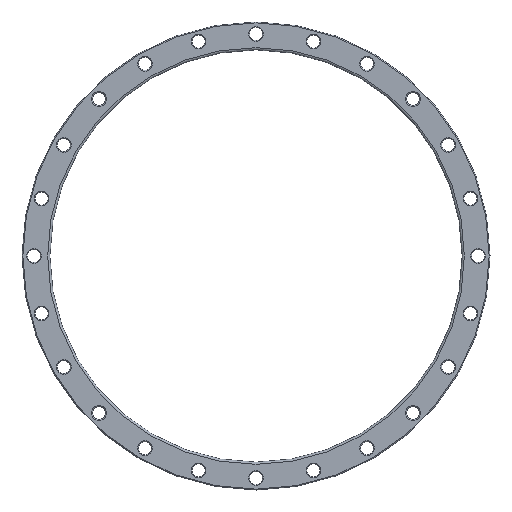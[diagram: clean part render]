
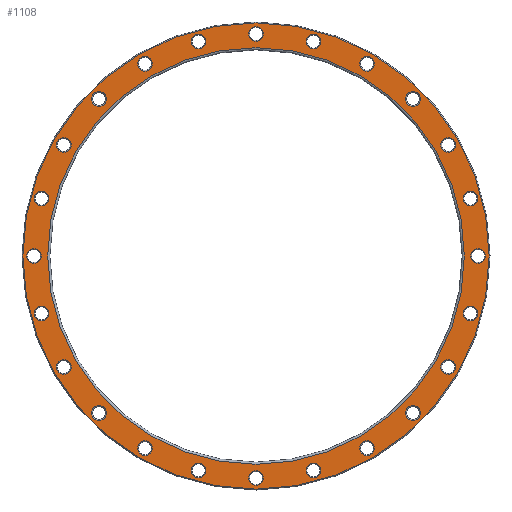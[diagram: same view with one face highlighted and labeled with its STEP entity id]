
A CAD part, front view. The second image highlights one B-rep face of the part: STEP entity #1108.
In plain terms, the highlighted planar face has unit normal (0, -1, 0).
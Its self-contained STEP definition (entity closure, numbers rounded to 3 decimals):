
#23=PLANE('',#1300);
#242=ORIENTED_EDGE('',*,*,#381,.T.);
#243=ORIENTED_EDGE('',*,*,#382,.T.);
#244=ORIENTED_EDGE('',*,*,#284,.T.);
#245=ORIENTED_EDGE('',*,*,#288,.T.);
#246=ORIENTED_EDGE('',*,*,#292,.T.);
#247=ORIENTED_EDGE('',*,*,#296,.T.);
#248=ORIENTED_EDGE('',*,*,#300,.T.);
#249=ORIENTED_EDGE('',*,*,#304,.T.);
#250=ORIENTED_EDGE('',*,*,#308,.T.);
#251=ORIENTED_EDGE('',*,*,#312,.T.);
#252=ORIENTED_EDGE('',*,*,#316,.T.);
#253=ORIENTED_EDGE('',*,*,#320,.T.);
#254=ORIENTED_EDGE('',*,*,#324,.T.);
#255=ORIENTED_EDGE('',*,*,#328,.T.);
#256=ORIENTED_EDGE('',*,*,#332,.T.);
#257=ORIENTED_EDGE('',*,*,#336,.T.);
#258=ORIENTED_EDGE('',*,*,#340,.T.);
#259=ORIENTED_EDGE('',*,*,#344,.T.);
#260=ORIENTED_EDGE('',*,*,#348,.T.);
#261=ORIENTED_EDGE('',*,*,#352,.T.);
#262=ORIENTED_EDGE('',*,*,#356,.T.);
#263=ORIENTED_EDGE('',*,*,#360,.T.);
#264=ORIENTED_EDGE('',*,*,#364,.T.);
#265=ORIENTED_EDGE('',*,*,#368,.T.);
#266=ORIENTED_EDGE('',*,*,#372,.T.);
#267=ORIENTED_EDGE('',*,*,#383,.T.);
#284=EDGE_CURVE('',#388,#388,#492,.T.);
#288=EDGE_CURVE('',#392,#392,#496,.T.);
#292=EDGE_CURVE('',#396,#396,#500,.T.);
#296=EDGE_CURVE('',#400,#400,#504,.T.);
#300=EDGE_CURVE('',#404,#404,#508,.T.);
#304=EDGE_CURVE('',#408,#408,#512,.T.);
#308=EDGE_CURVE('',#412,#412,#516,.T.);
#312=EDGE_CURVE('',#416,#416,#520,.T.);
#316=EDGE_CURVE('',#420,#420,#524,.T.);
#320=EDGE_CURVE('',#424,#424,#528,.T.);
#324=EDGE_CURVE('',#428,#428,#532,.T.);
#328=EDGE_CURVE('',#432,#432,#536,.T.);
#332=EDGE_CURVE('',#436,#436,#540,.T.);
#336=EDGE_CURVE('',#440,#440,#544,.T.);
#340=EDGE_CURVE('',#444,#444,#548,.T.);
#344=EDGE_CURVE('',#448,#448,#552,.T.);
#348=EDGE_CURVE('',#452,#452,#556,.T.);
#352=EDGE_CURVE('',#456,#456,#560,.T.);
#356=EDGE_CURVE('',#460,#460,#564,.T.);
#360=EDGE_CURVE('',#464,#464,#568,.T.);
#364=EDGE_CURVE('',#468,#468,#572,.T.);
#368=EDGE_CURVE('',#472,#472,#576,.T.);
#372=EDGE_CURVE('',#476,#476,#580,.T.);
#381=EDGE_CURVE('',#485,#485,#589,.F.);
#382=EDGE_CURVE('',#486,#486,#590,.T.);
#383=EDGE_CURVE('',#487,#487,#591,.T.);
#388=VERTEX_POINT('',#1691);
#392=VERTEX_POINT('',#1702);
#396=VERTEX_POINT('',#1713);
#400=VERTEX_POINT('',#1724);
#404=VERTEX_POINT('',#1735);
#408=VERTEX_POINT('',#1746);
#412=VERTEX_POINT('',#1757);
#416=VERTEX_POINT('',#1768);
#420=VERTEX_POINT('',#1779);
#424=VERTEX_POINT('',#1790);
#428=VERTEX_POINT('',#1801);
#432=VERTEX_POINT('',#1812);
#436=VERTEX_POINT('',#1823);
#440=VERTEX_POINT('',#1834);
#444=VERTEX_POINT('',#1845);
#448=VERTEX_POINT('',#1856);
#452=VERTEX_POINT('',#1867);
#456=VERTEX_POINT('',#1878);
#460=VERTEX_POINT('',#1889);
#464=VERTEX_POINT('',#1900);
#468=VERTEX_POINT('',#1911);
#472=VERTEX_POINT('',#1922);
#476=VERTEX_POINT('',#1933);
#485=VERTEX_POINT('',#1956);
#486=VERTEX_POINT('',#1958);
#487=VERTEX_POINT('',#1960);
#492=CIRCLE('',#1133,17.);
#496=CIRCLE('',#1140,17.);
#500=CIRCLE('',#1147,17.);
#504=CIRCLE('',#1154,17.);
#508=CIRCLE('',#1161,17.);
#512=CIRCLE('',#1168,17.);
#516=CIRCLE('',#1175,17.);
#520=CIRCLE('',#1182,17.);
#524=CIRCLE('',#1189,17.);
#528=CIRCLE('',#1196,17.);
#532=CIRCLE('',#1203,17.);
#536=CIRCLE('',#1210,17.);
#540=CIRCLE('',#1217,17.);
#544=CIRCLE('',#1224,17.);
#548=CIRCLE('',#1231,17.);
#552=CIRCLE('',#1238,17.);
#556=CIRCLE('',#1245,17.);
#560=CIRCLE('',#1252,17.);
#564=CIRCLE('',#1259,17.);
#568=CIRCLE('',#1266,17.);
#572=CIRCLE('',#1273,17.);
#576=CIRCLE('',#1280,17.);
#580=CIRCLE('',#1287,17.);
#589=CIRCLE('',#1301,535.5);
#590=CIRCLE('',#1302,478.5);
#591=CIRCLE('',#1303,17.);
#762=EDGE_LOOP('',(#242));
#763=EDGE_LOOP('',(#243));
#764=EDGE_LOOP('',(#244));
#765=EDGE_LOOP('',(#245));
#766=EDGE_LOOP('',(#246));
#767=EDGE_LOOP('',(#247));
#768=EDGE_LOOP('',(#248));
#769=EDGE_LOOP('',(#249));
#770=EDGE_LOOP('',(#250));
#771=EDGE_LOOP('',(#251));
#772=EDGE_LOOP('',(#252));
#773=EDGE_LOOP('',(#253));
#774=EDGE_LOOP('',(#254));
#775=EDGE_LOOP('',(#255));
#776=EDGE_LOOP('',(#256));
#777=EDGE_LOOP('',(#257));
#778=EDGE_LOOP('',(#258));
#779=EDGE_LOOP('',(#259));
#780=EDGE_LOOP('',(#260));
#781=EDGE_LOOP('',(#261));
#782=EDGE_LOOP('',(#262));
#783=EDGE_LOOP('',(#263));
#784=EDGE_LOOP('',(#264));
#785=EDGE_LOOP('',(#265));
#786=EDGE_LOOP('',(#266));
#787=EDGE_LOOP('',(#267));
#970=FACE_BOUND('',#762,.T.);
#971=FACE_BOUND('',#763,.T.);
#972=FACE_BOUND('',#764,.T.);
#973=FACE_BOUND('',#765,.T.);
#974=FACE_BOUND('',#766,.T.);
#975=FACE_BOUND('',#767,.T.);
#976=FACE_BOUND('',#768,.T.);
#977=FACE_BOUND('',#769,.T.);
#978=FACE_BOUND('',#770,.T.);
#979=FACE_BOUND('',#771,.T.);
#980=FACE_BOUND('',#772,.T.);
#981=FACE_BOUND('',#773,.T.);
#982=FACE_BOUND('',#774,.T.);
#983=FACE_BOUND('',#775,.T.);
#984=FACE_BOUND('',#776,.T.);
#985=FACE_BOUND('',#777,.T.);
#986=FACE_BOUND('',#778,.T.);
#987=FACE_BOUND('',#779,.T.);
#988=FACE_BOUND('',#780,.T.);
#989=FACE_BOUND('',#781,.T.);
#990=FACE_BOUND('',#782,.T.);
#991=FACE_BOUND('',#783,.T.);
#992=FACE_BOUND('',#784,.T.);
#993=FACE_BOUND('',#785,.T.);
#994=FACE_BOUND('',#786,.T.);
#995=FACE_BOUND('',#787,.T.);
#1108=ADVANCED_FACE('',(#970,#971,#972,#973,#974,#975,#976,#977,#978,#979,
#980,#981,#982,#983,#984,#985,#986,#987,#988,#989,#990,#991,#992,#993,#994,
#995),#23,.F.);
#1133=AXIS2_PLACEMENT_3D('',#1690,#1323,#1324);
#1140=AXIS2_PLACEMENT_3D('',#1701,#1337,#1338);
#1147=AXIS2_PLACEMENT_3D('',#1712,#1351,#1352);
#1154=AXIS2_PLACEMENT_3D('',#1723,#1365,#1366);
#1161=AXIS2_PLACEMENT_3D('',#1734,#1379,#1380);
#1168=AXIS2_PLACEMENT_3D('',#1745,#1393,#1394);
#1175=AXIS2_PLACEMENT_3D('',#1756,#1407,#1408);
#1182=AXIS2_PLACEMENT_3D('',#1767,#1421,#1422);
#1189=AXIS2_PLACEMENT_3D('',#1778,#1435,#1436);
#1196=AXIS2_PLACEMENT_3D('',#1789,#1449,#1450);
#1203=AXIS2_PLACEMENT_3D('',#1800,#1463,#1464);
#1210=AXIS2_PLACEMENT_3D('',#1811,#1477,#1478);
#1217=AXIS2_PLACEMENT_3D('',#1822,#1491,#1492);
#1224=AXIS2_PLACEMENT_3D('',#1833,#1505,#1506);
#1231=AXIS2_PLACEMENT_3D('',#1844,#1519,#1520);
#1238=AXIS2_PLACEMENT_3D('',#1855,#1533,#1534);
#1245=AXIS2_PLACEMENT_3D('',#1866,#1547,#1548);
#1252=AXIS2_PLACEMENT_3D('',#1877,#1561,#1562);
#1259=AXIS2_PLACEMENT_3D('',#1888,#1575,#1576);
#1266=AXIS2_PLACEMENT_3D('',#1899,#1589,#1590);
#1273=AXIS2_PLACEMENT_3D('',#1910,#1603,#1604);
#1280=AXIS2_PLACEMENT_3D('',#1921,#1617,#1618);
#1287=AXIS2_PLACEMENT_3D('',#1932,#1631,#1632);
#1300=AXIS2_PLACEMENT_3D('',#1954,#1657,#1658);
#1301=AXIS2_PLACEMENT_3D('',#1955,#1659,#1660);
#1302=AXIS2_PLACEMENT_3D('',#1957,#1661,#1662);
#1303=AXIS2_PLACEMENT_3D('',#1959,#1663,#1664);
#1323=DIRECTION('',(0.,1.,0.));
#1324=DIRECTION('',(0.966,0.,0.259));
#1337=DIRECTION('',(0.,1.,0.));
#1338=DIRECTION('',(0.866,0.,0.5));
#1351=DIRECTION('',(0.,1.,0.));
#1352=DIRECTION('',(0.707,0.,0.707));
#1365=DIRECTION('',(0.,1.,0.));
#1366=DIRECTION('',(0.5,0.,0.866));
#1379=DIRECTION('',(0.,1.,0.));
#1380=DIRECTION('',(0.259,0.,0.966));
#1393=DIRECTION('',(0.,1.,0.));
#1394=DIRECTION('',(0.,0.,1.));
#1407=DIRECTION('',(0.,1.,0.));
#1408=DIRECTION('',(-0.259,0.,0.966));
#1421=DIRECTION('',(0.,1.,0.));
#1422=DIRECTION('',(-0.5,0.,0.866));
#1435=DIRECTION('',(0.,1.,0.));
#1436=DIRECTION('',(-0.707,0.,0.707));
#1449=DIRECTION('',(0.,1.,0.));
#1450=DIRECTION('',(-0.866,0.,0.5));
#1463=DIRECTION('',(0.,1.,0.));
#1464=DIRECTION('',(-0.966,0.,0.259));
#1477=DIRECTION('',(0.,1.,0.));
#1478=DIRECTION('',(-1.,0.,0.));
#1491=DIRECTION('',(0.,1.,0.));
#1492=DIRECTION('',(-0.966,0.,-0.259));
#1505=DIRECTION('',(0.,1.,0.));
#1506=DIRECTION('',(-0.866,0.,-0.5));
#1519=DIRECTION('',(0.,1.,0.));
#1520=DIRECTION('',(-0.707,0.,-0.707));
#1533=DIRECTION('',(0.,1.,0.));
#1534=DIRECTION('',(-0.5,0.,-0.866));
#1547=DIRECTION('',(0.,1.,0.));
#1548=DIRECTION('',(-0.259,0.,-0.966));
#1561=DIRECTION('',(0.,1.,0.));
#1562=DIRECTION('',(0.,0.,-1.));
#1575=DIRECTION('',(0.,1.,0.));
#1576=DIRECTION('',(0.259,0.,-0.966));
#1589=DIRECTION('',(0.,1.,0.));
#1590=DIRECTION('',(0.5,0.,-0.866));
#1603=DIRECTION('',(0.,1.,0.));
#1604=DIRECTION('',(0.707,0.,-0.707));
#1617=DIRECTION('',(0.,1.,0.));
#1618=DIRECTION('',(0.866,0.,-0.5));
#1631=DIRECTION('',(0.,1.,0.));
#1632=DIRECTION('',(0.966,0.,-0.259));
#1657=DIRECTION('',(0.,1.,0.));
#1658=DIRECTION('',(0.,0.,1.));
#1659=DIRECTION('',(0.,1.,0.));
#1660=DIRECTION('',(0.,0.,1.));
#1661=DIRECTION('',(0.,1.,0.));
#1662=DIRECTION('',(0.,0.,1.));
#1663=DIRECTION('',(0.,1.,0.));
#1664=DIRECTION('',(1.,0.,0.));
#1690=CARTESIAN_POINT('',(-131.998,0.,492.622));
#1691=CARTESIAN_POINT('',(-115.577,0.,497.022));
#1701=CARTESIAN_POINT('',(-255.,0.,441.673));
#1702=CARTESIAN_POINT('',(-240.278,0.,450.173));
#1712=CARTESIAN_POINT('',(-360.624,0.,360.624));
#1713=CARTESIAN_POINT('',(-348.604,0.,372.645));
#1723=CARTESIAN_POINT('',(-441.673,0.,255.));
#1724=CARTESIAN_POINT('',(-433.173,0.,269.722));
#1734=CARTESIAN_POINT('',(-492.622,0.,131.998));
#1735=CARTESIAN_POINT('',(-488.222,0.,148.418));
#1745=CARTESIAN_POINT('',(-510.,0.,0.));
#1746=CARTESIAN_POINT('',(-510.,0.,17.));
#1756=CARTESIAN_POINT('',(-492.622,0.,-131.998));
#1757=CARTESIAN_POINT('',(-497.022,0.,-115.577));
#1767=CARTESIAN_POINT('',(-441.673,0.,-255.));
#1768=CARTESIAN_POINT('',(-450.173,0.,-240.278));
#1778=CARTESIAN_POINT('',(-360.624,0.,-360.624));
#1779=CARTESIAN_POINT('',(-372.645,0.,-348.604));
#1789=CARTESIAN_POINT('',(-255.,0.,-441.673));
#1790=CARTESIAN_POINT('',(-269.722,0.,-433.173));
#1800=CARTESIAN_POINT('',(-131.998,0.,-492.622));
#1801=CARTESIAN_POINT('',(-148.418,0.,-488.222));
#1811=CARTESIAN_POINT('',(0.,0.,-510.));
#1812=CARTESIAN_POINT('',(-17.,0.,-510.));
#1822=CARTESIAN_POINT('',(131.998,0.,-492.622));
#1823=CARTESIAN_POINT('',(115.577,0.,-497.022));
#1833=CARTESIAN_POINT('',(255.,0.,-441.673));
#1834=CARTESIAN_POINT('',(240.278,0.,-450.173));
#1844=CARTESIAN_POINT('',(360.624,0.,-360.624));
#1845=CARTESIAN_POINT('',(348.604,0.,-372.645));
#1855=CARTESIAN_POINT('',(441.673,0.,-255.));
#1856=CARTESIAN_POINT('',(433.173,0.,-269.722));
#1866=CARTESIAN_POINT('',(492.622,0.,-131.998));
#1867=CARTESIAN_POINT('',(488.222,0.,-148.418));
#1877=CARTESIAN_POINT('',(510.,0.,0.));
#1878=CARTESIAN_POINT('',(510.,0.,-17.));
#1888=CARTESIAN_POINT('',(492.622,0.,131.998));
#1889=CARTESIAN_POINT('',(497.022,0.,115.577));
#1899=CARTESIAN_POINT('',(441.673,0.,255.));
#1900=CARTESIAN_POINT('',(450.173,0.,240.278));
#1910=CARTESIAN_POINT('',(360.624,0.,360.624));
#1911=CARTESIAN_POINT('',(372.645,0.,348.604));
#1921=CARTESIAN_POINT('',(255.,0.,441.673));
#1922=CARTESIAN_POINT('',(269.722,0.,433.173));
#1932=CARTESIAN_POINT('',(131.998,0.,492.622));
#1933=CARTESIAN_POINT('',(148.418,0.,488.222));
#1954=CARTESIAN_POINT('',(0.,0.,0.));
#1955=CARTESIAN_POINT('',(0.,0.,0.));
#1956=CARTESIAN_POINT('',(0.,0.,535.5));
#1957=CARTESIAN_POINT('',(0.,0.,0.));
#1958=CARTESIAN_POINT('',(0.,0.,478.5));
#1959=CARTESIAN_POINT('',(0.,0.,510.));
#1960=CARTESIAN_POINT('',(17.,0.,510.));
